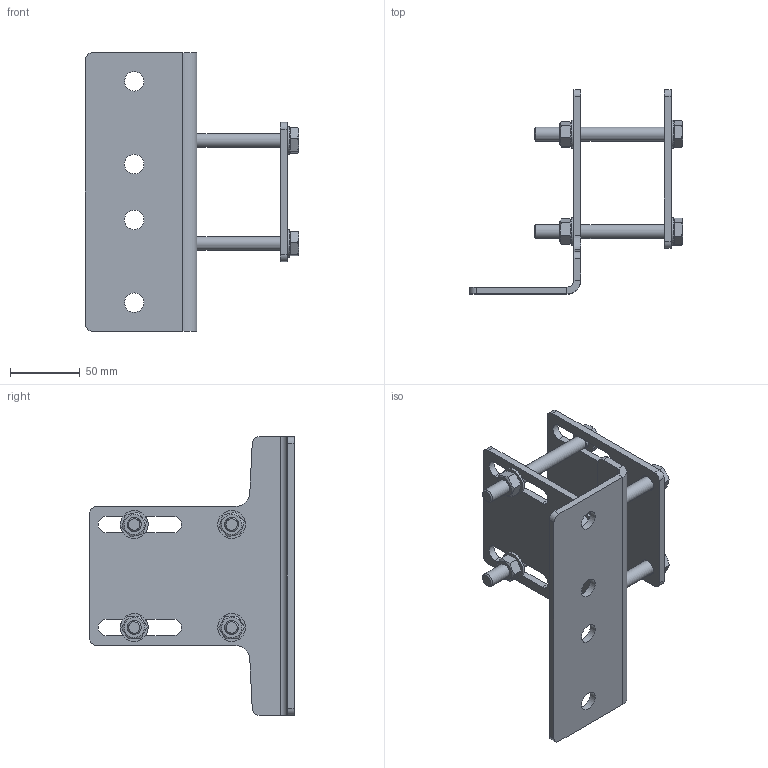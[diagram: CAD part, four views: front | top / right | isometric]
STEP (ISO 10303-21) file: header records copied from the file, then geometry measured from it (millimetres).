
FILE_DESCRIPTION(/* description */ (''),/* implementation_level */ '2;1');
FILE_NAME(/* name */ 'D:\VDV Techniek\Documents\Inventor\_ISP_Products\UDG on SquareTube\UDG SquareTube Clamped\STP\Square tube 60mm-out-Mounting bracket.stp',/* time_stamp */ '2022-12-29T15:44:43+01:00',/* author */ ('jos'),/* organization */ (''),/* preprocessor_version */ 'ST-DEVELOPER v15.2',/* originating_system */ 'Autodesk Inventor 2014',/* authorisation */ '');
FILE_SCHEMA (('AUTOMOTIVE_DESIGN { 1 0 10303 214 3 1 1 }'));
Length unit declared in the file: millimetre
Products named in the file (6): UDG_Mounting_Bracket_universal_HDG; UDG_Counter_Plate_universal_HDG; ISO 4032 - M10DIN EN; DIN 126 - 11; DIN 933 - M10  x 100; Square tube 60mm-out-Mounting bracket
Assembly tree (18 placements, depth 2):
  Square tube 60mm-out-Mounting bracket
    UDG_Mounting_Bracket_universal_HDG
    UDG_Counter_Plate_universal_HDG
    ISO 4032 - M10DIN EN  x4
    DIN 126 - 11  x8
    DIN 933 - M10  x 100  x4
Bounding box: 153.1 x 147 x 200 mm (x, y, z)
Volume: 244482.4 mm3; surface area: 114519.3 mm2
Topology: 18 solids, 18 shells, 228 faces, 504 edges, 320 vertices
Faces by surface type: plane 118, cylinder 62, cone 48
Full cylindrical faces by diameter (mm): 8.376 x4, 9.188 x4, 10 x4, 11 x8, 12 x4, 14 x4, 15.4 x4, 20 x8
Entity records: 3034 total; most frequent: CARTESIAN_POINT 538, DIRECTION 520, ORIENTED_EDGE 434, EDGE_CURVE 217, AXIS2_PLACEMENT_3D 205, VERTEX_POINT 151, EDGE_LOOP 148, LINE 110
